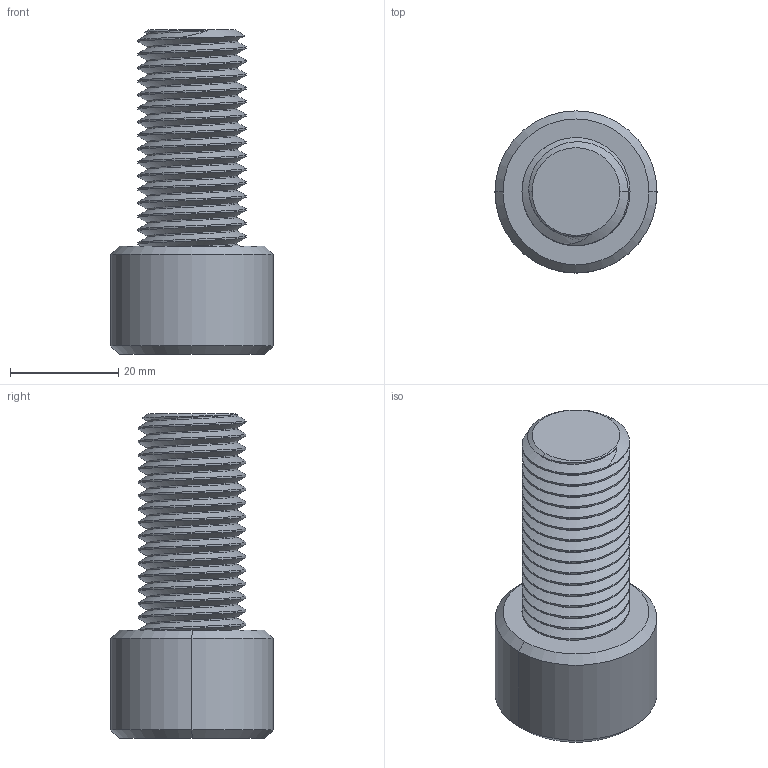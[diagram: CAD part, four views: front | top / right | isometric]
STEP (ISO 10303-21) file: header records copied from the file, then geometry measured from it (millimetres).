
FILE_DESCRIPTION (( 'STEP AP203' ), '1' );
FILE_NAME ('SOCKET HEAD CAP SCREW M20 x 2.5 mm Thread 40 mm Long.STEP', '2017-03-06T13:52:08', ( 'itdept' ), ( '' ), 'SwSTEP 2.0', 'SolidWorks 2016', '' );
FILE_SCHEMA (( 'CONFIG_CONTROL_DESIGN' ));
Length unit declared in the file: millimetre
Products named in the file (1): SOCKET HEAD CAP SCREW M20 x 2.5 mm Thread 40 mm Long
Bounding box: 30 x 30 x 60 mm (x, y, z)
Volume: 21334.2 mm3; surface area: 7827.6 mm2
Topology: 1 solids, 1 shells, 92 faces, 248 edges, 160 vertices
Faces by surface type: cylinder 67, cone 13, plane 10, bspline 2
Entity records: 4626 total; most frequent: CARTESIAN_POINT 2649, ORIENTED_EDGE 496, DIRECTION 308, EDGE_CURVE 248, VERTEX_POINT 160, AXIS2_PLACEMENT_3D 112, EDGE_LOOP 94, FACE_OUTER_BOUND 92
